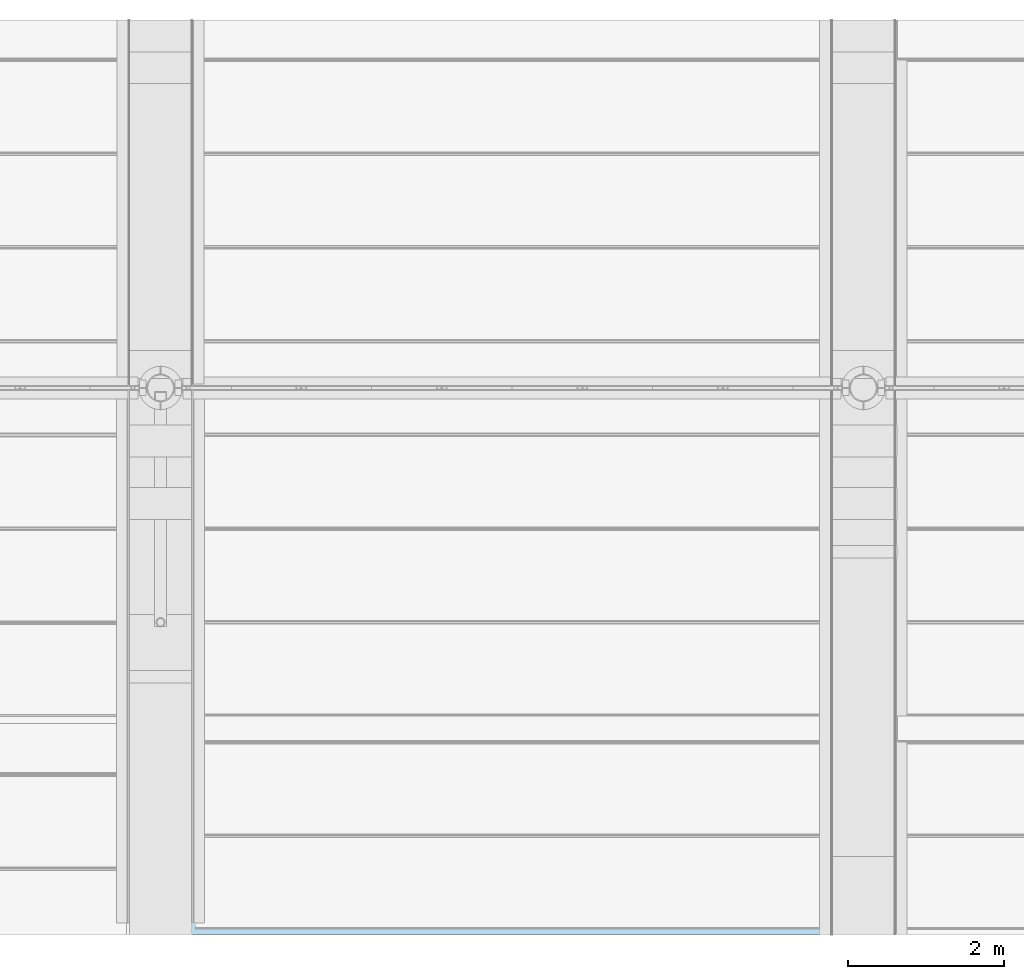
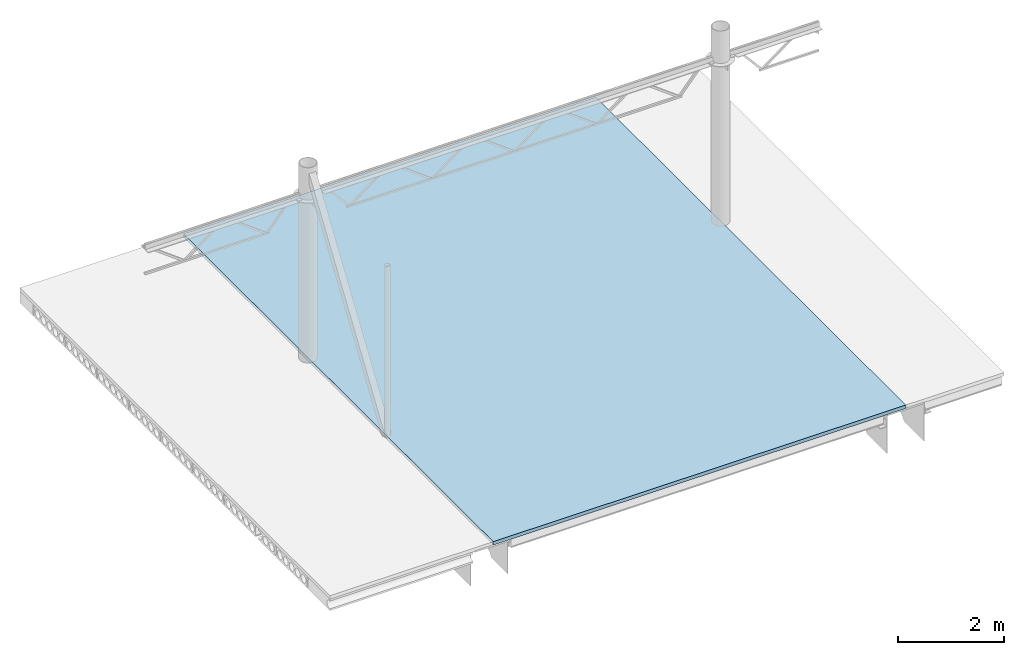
# One storey, part 16 of 21: 1 slab.
"""IFC2X3 building model written with IfcOpenShell, lengths in millimetres."""

import ifcopenshell
import ifcopenshell.guid

model = None  # the IFC model being written
_history = None  # IfcOwnerHistory: only IFC2X3 demands one
_inside = {}  # id of a spatial element -> (the spatial element, [elements in it])
_under = {}  # id of a project, library or spatial element -> (it, [spatial elements below it])
_declared = {}  # id of a project -> (the project, [libraries it declares])
_typed = {}  # id of a type object -> (the type object, [elements of that type])
_made_of = {}  # id of a material, layer set ... -> (it, [elements and type objects made of it])


def new_model(schema):
    """Start an empty IFC model of exactly this schema.

    Asked for "IFC4X3", IfcOpenShell would pick the latest addendum, in which some entities
    have other attributes; the version numbers below select the first issue.
    IFC2X3 requires an IfcOwnerHistory on every rooted entity: one is made here for all.
    """
    global model, _history
    if schema == "IFC4X3":
        model = ifcopenshell.file(schema_version=(4, 3, 0, 0))
    else:
        model = ifcopenshell.file(schema=schema)
    _inside.clear()
    _under.clear()
    _declared.clear()
    _typed.clear()
    _made_of.clear()
    _history = None
    if model.schema == "IFC2X3":
        org = make("IfcOrganization", Name="unknown")
        user = make(
            "IfcPersonAndOrganization",
            ThePerson=make("IfcPerson", FamilyName="unknown"),
            TheOrganization=org,
        )
        app = make(
            "IfcApplication",
            ApplicationDeveloper=org,
            Version="unknown",
            ApplicationFullName="unknown",
            ApplicationIdentifier="unknown",
        )
        _history = make(
            "IfcOwnerHistory",
            OwningUser=user,
            OwningApplication=app,
            ChangeAction="ADDED",
            CreationDate=0,
        )
    return model


def make(cls, **values):
    """One entity of the class cls with the attributes given. An attribute that is None is left unset."""
    return model.create_entity(
        cls, **{name: value for name, value in values.items() if value is not None}
    )


def entity(cls, *values):
    """Any entity or typed value of the class cls, its attributes in the order of the schema. None: left unset."""
    e = model.create_entity(cls)
    for i, value in enumerate(values):
        if value is not None:
            e[i] = value
    return e


def rooted(cls, **values):
    """An entity with a GlobalId (a new one), such as an element, a storey or a relation."""
    return make(cls, GlobalId=ifcopenshell.guid.new(), OwnerHistory=_history, **values)


def si_unit(unit_type, name, prefix=None):
    """IfcSIUnit, for example si_unit("LENGTHUNIT", "METRE", prefix="MILLI")."""
    return make("IfcSIUnit", UnitType=unit_type, Prefix=prefix, Name=name)


def converted_unit(unit_type, name, factor, base, dimensions=None, offset=None):
    """IfcConversionBasedUnit, such as the inch: factor (a typed value) times the base unit."""
    return make(
        "IfcConversionBasedUnit"
        if offset is None
        else "IfcConversionBasedUnitWithOffset",
        ConversionOffset=offset,
        Dimensions=None
        if dimensions is None
        else entity("IfcDimensionalExponents", *dimensions),
        UnitType=unit_type,
        Name=name,
        ConversionFactor=make(
            "IfcMeasureWithUnit", ValueComponent=factor, UnitComponent=base
        ),
    )


def derived_unit(unit_type, elements):
    """IfcDerivedUnit: a product of units, each with its exponent."""
    return make(
        "IfcDerivedUnit",
        Elements=[
            make("IfcDerivedUnitElement", Unit=unit, Exponent=power)
            for unit, power in elements
        ],
        UnitType=unit_type,
    )


def assignment(units):
    """IfcUnitAssignment: the units of a project."""
    return None if units is None else make("IfcUnitAssignment", Units=units)


def point(xyz):
    """IfcCartesianPoint."""
    return None if xyz is None else make("IfcCartesianPoint", Coordinates=xyz)


def direction(xyz):
    """IfcDirection."""
    return None if xyz is None else make("IfcDirection", DirectionRatios=xyz)


def frame(location, z_axis=None, x_axis=None):
    """IfcAxis2Placement3D, a coordinate frame: its origin and axes. An axis left out is left unset."""
    return make(
        "IfcAxis2Placement3D",
        Location=point(location),
        Axis=direction(z_axis),
        RefDirection=direction(x_axis),
    )


def origin_with_axes():
    """The frame at (0, 0, 0) with the z axis (0, 0, 1) and the x axis (1, 0, 0) written out."""
    return frame((0.0, 0.0, 0.0), z_axis=(0.0, 0.0, 1.0), x_axis=(1.0, 0.0, 0.0))


def place(relative_to, where):
    """IfcLocalPlacement: puts the frame where relative to a parent placement (None: the world)."""
    return make(
        "IfcLocalPlacement", PlacementRelTo=relative_to, RelativePlacement=where
    )


def context(
    kind, dimensions, precision=None, world=None, true_north=None, identifier=None
):
    """IfcGeometricRepresentationContext, for example the 3D "Model" context."""
    return make(
        "IfcGeometricRepresentationContext",
        ContextIdentifier=identifier,
        ContextType=kind,
        CoordinateSpaceDimension=dimensions,
        Precision=precision,
        WorldCoordinateSystem=world,
        TrueNorth=true_north,
    )


def subcontext(parent, identifier, kind, view, scale=None):
    """IfcGeometricRepresentationSubContext, for example "Body" below "Model"."""
    return make(
        "IfcGeometricRepresentationSubContext",
        ContextIdentifier=identifier,
        ContextType=kind,
        ParentContext=parent,
        TargetScale=scale,
        TargetView=view,
    )


def project(units=None, contexts=None):
    """IfcProject with its units and contexts."""
    return rooted(
        "IfcProject",
        Name="project",
        RepresentationContexts=contexts,
        UnitsInContext=assignment(units),
    )


def spatial(cls, under=None, at=None, **own):
    """A site, building, storey or space (cls), placed at a placement, below another one or the project."""
    s = rooted(cls, ObjectPlacement=at, **own)
    if under is not None:
        _under.setdefault(under.id(), (under, []))[1].append(s)
    return s


def faces_of(points, faces, orient=None, outer=None):
    """IfcFace entities. A face is a list of loops; a loop is a list of indices into points, from 0.

    orient and outer hold one flag for each loop. By default every Orientation is true, the
    first loop of a face is its IfcFaceOuterBound and the others are IfcFaceBound.
    """
    made = []
    for i, loops in enumerate(faces):
        bounds = []
        for j, loop in enumerate(loops):
            is_outer = j == 0 if outer is None else outer[i][j]
            bounds.append(
                make(
                    "IfcFaceOuterBound" if is_outer else "IfcFaceBound",
                    Bound=make("IfcPolyLoop", Polygon=[points[k] for k in loop]),
                    Orientation=True if orient is None else orient[i][j],
                )
            )
        made.append(make("IfcFace", Bounds=bounds))
    return made


def faceted_brep(points, faces, orient=None, outer=None, voids=None):
    """IfcFacetedBrep: a solid bounded by flat faces; with voids (closed shells), ...WithVoids."""
    shared = [point(p) for p in points]
    hull = make("IfcClosedShell", CfsFaces=faces_of(shared, faces, orient, outer))
    if voids is None:
        return make("IfcFacetedBrep", Outer=hull)
    return make(
        "IfcFacetedBrepWithVoids",
        Outer=hull,
        Voids=[
            make(cls, CfsFaces=faces_of(shared, fs, o, b)) for cls, fs, o, b in voids
        ],
    )


def shape(context_of_items, identifier, shape_type, items):
    """IfcShapeRepresentation: the items that make up one representation, for example the "Body"."""
    return make(
        "IfcShapeRepresentation",
        ContextOfItems=context_of_items,
        RepresentationIdentifier=identifier,
        RepresentationType=shape_type,
        Items=items,
    )


def made_of(thing, what):
    """Note that an element or type object is made of a material, layer set ...; save() writes the relation."""
    if what is not None:
        _made_of.setdefault(what.id(), (what, []))[1].append(thing)
    return thing


def type_object(cls, material=None, **own):
    """A type object (cls), such as IfcWallType, which elements share."""
    return made_of(rooted(cls, **own), material)


def element(
    cls,
    number,
    at=None,
    inside=None,
    cuts=None,
    type_object=None,
    material=None,
    context=None,
    identifier="Body",
    shape_type=None,
    held_by="IfcProductDefinitionShape",
    body=None,
    shapes=None,
    **own,
):
    """One element of the class cls, such as IfcWall. Its Tag is "e" and its number.

    at: its placement. inside: the storey or other place that contains it. cuts: it is an
    opening in that element (IfcRelVoidsElement). A single representation is given by context,
    identifier, shape_type and body (its items); several are given by shapes. held_by: the class
    of the entity that holds the representations. save() writes the other relations.
    """
    e = rooted(cls, Tag="e%d" % number, ObjectPlacement=at, **own)
    if body is not None:
        shapes = [shape(context, identifier, shape_type, body)]
    if shapes is not None:
        e.Representation = make(held_by, Representations=shapes)
    if inside is not None:
        _inside.setdefault(inside.id(), (inside, []))[1].append(e)
    if cuts is not None:
        rooted(
            "IfcRelVoidsElement", RelatingBuildingElement=cuts, RelatedOpeningElement=e
        )
    if type_object is not None:
        _typed.setdefault(type_object.id(), (type_object, []))[1].append(e)
    return made_of(e, material)


def aggregate(whole, parts):
    """IfcRelAggregates: a whole, such as a stair, and the parts it consists of."""
    return rooted("IfcRelAggregates", RelatingObject=whole, RelatedObjects=parts)


def save(model, path):
    """Write the relations noted so far, then the file.

    IfcRelAggregates (storeys below a building ...), IfcRelContainedInSpatialStructure (elements
    in a storey), IfcRelDefinesByType, IfcRelAssociatesMaterial and IfcRelDeclares: one each for
    every whole, place, type object, material and project.
    """
    for whole, parts in _under.values():
        aggregate(whole, parts)
    for where, things in _inside.values():
        rooted(
            "IfcRelContainedInSpatialStructure",
            RelatedElements=things,
            RelatingStructure=where,
        )
    for kind, things in _typed.values():
        rooted("IfcRelDefinesByType", RelatedObjects=things, RelatingType=kind)
    for what, things in _made_of.values():
        rooted("IfcRelAssociatesMaterial", RelatedObjects=things, RelatingMaterial=what)
    for by, libraries in _declared.values():
        rooted("IfcRelDeclares", RelatingContext=by, RelatedDefinitions=libraries)
    model.write(path)


model = new_model("IFC2X3")

# Units and contexts
model_context = context("Model", 3, precision=0.01, world=frame((0.0, 4.29681676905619e-09, 0.0)), true_north=direction((4.01073788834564e-13, 1.0)))
plan_context = context("Plan", 3, precision=0.01, world=frame((0.0, 4.29681676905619e-09, 0.0)), true_north=direction((4.01073788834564e-13, 1.0)))
body_context = subcontext(model_context, "Body", "Model", "MODEL_VIEW")
ifc_project = project(units=[converted_unit("PLANEANGLEUNIT", "DEGREE", entity("IfcPositiveLengthMeasure", 0.0174532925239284), si_unit("PLANEANGLEUNIT", "RADIAN"), dimensions=[0, 0, 0, 0, 0, 0, 0]), si_unit("AREAUNIT", "SQUARE_METRE"), si_unit("LENGTHUNIT", "METRE", prefix="MILLI"), si_unit("MASSUNIT", "GRAM", prefix="KILO"), si_unit("POWERUNIT", "WATT"), si_unit("PRESSUREUNIT", "PASCAL", prefix="KILO"), si_unit("FORCEUNIT", "NEWTON", prefix="KILO"), si_unit("ELECTRICVOLTAGEUNIT", "VOLT"), si_unit("ELECTRICCURRENTUNIT", "AMPERE"), si_unit("THERMODYNAMICTEMPERATUREUNIT", "DEGREE_CELSIUS"), si_unit("TIMEUNIT", "SECOND"), si_unit("VOLUMEUNIT", "CUBIC_METRE"), derived_unit("LINEARVELOCITYUNIT", [(si_unit("LENGTHUNIT", "METRE"), 1), (si_unit("TIMEUNIT", "SECOND"), -1)]), derived_unit("VOLUMETRICFLOWRATEUNIT", [(si_unit("VOLUMEUNIT", "CUBIC_METRE"), 1), (si_unit("TIMEUNIT", "SECOND"), -1)]), derived_unit("THERMALTRANSMITTANCEUNIT", [(si_unit("POWERUNIT", "WATT"), 1), (si_unit("THERMODYNAMICTEMPERATUREUNIT", "KELVIN"), -1), (si_unit("AREAUNIT", "SQUARE_METRE"), -1)]), derived_unit("SOUNDPRESSUREUNIT", [(si_unit("PRESSUREUNIT", "PASCAL"), 1)])], contexts=[model_context, plan_context])

# Site, building, storey
site_placement = place(None, frame((0.0, -4.29681676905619e-09, 0.0), z_axis=(0.0, 0.0, 1.0), x_axis=(1.0, 0.0, 0.0)))
site = spatial("IfcSite", under=ifc_project, at=site_placement, Name="Gardermoen", CompositionType="ELEMENT")
building_placement = place(site_placement, frame((0.0, 4.29681676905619e-09, 0.0), z_axis=(0.0, 0.0, 1.0), x_axis=(1.0, 0.0, 0.0)))
building = spatial("IfcBuilding", under=site, at=building_placement, Name="TS", CompositionType="ELEMENT")
storey_placement = place(building_placement, origin_with_axes())
storey = spatial("IfcBuildingStorey", under=building, at=storey_placement, Name="F", CompositionType="ELEMENT", Elevation=0.0)

# Slab
slab_type = type_object("IfcSlabType", Name="80*9000", PredefinedType="NOTDEFINED")
slab_placement = place(storey_placement, frame((718000.0, 450500.0, 210835.0), z_axis=(1.0, 0.0, 0.0), x_axis=(0.0, -1.0, 0.0)))
element("IfcSlab", 1, at=slab_placement, inside=storey, type_object=slab_type, Name="PÅSTØP", ObjectType="80*9000", PredefinedType="FLOOR", context=body_context, shape_type="Brep", body=[
    faceted_brep([(16000.9920111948, 40.0, 9000.0), (16000.9920111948, -40.0, 9000.0), (4288.5755361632, -40.0, 9000.0), (4288.5755361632, 40.0, 9000.0), (4288.5755361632, 39.9999999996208, 1.15970290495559e-09), (4288.5755361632, -39.9999999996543, -1.2489108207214e-09), (16000.9920111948, -39.9999999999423, -2.08634729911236e-10), (16000.9920111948, 39.9999999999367, 1.93732249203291e-10)], [[[0, 1, 2, 3]], [[4, 5, 6, 7]], [[3, 4, 7, 0]], [[5, 2, 1, 6]], [[5, 4, 3, 2]], [[7, 6, 1, 0]]], orient=[[False], [False], [False], [False], [False], [False]]),
])

save(model, "model.ifc")
